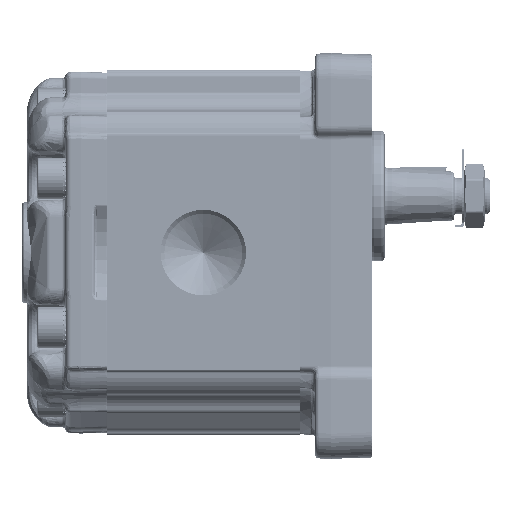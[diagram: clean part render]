
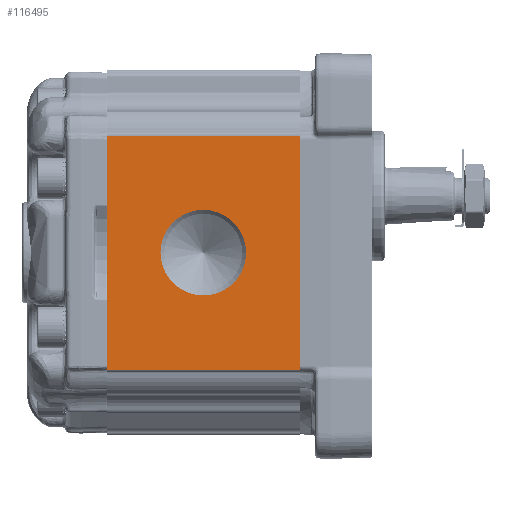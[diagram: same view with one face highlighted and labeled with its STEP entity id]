
A CAD part, left-side view. The second image highlights one B-rep face of the part: STEP entity #116495.
In plain terms, the highlighted planar face has unit normal (-1, 0, 0) as drawn and (1, 0, 0) by its records, which use the part's own axes.
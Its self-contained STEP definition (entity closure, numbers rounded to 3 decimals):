
#6817=PLANE('',#123142);
#9636=LINE('',#179223,#14495);
#9647=LINE('',#179307,#14506);
#9693=LINE('',#179457,#14552);
#9694=LINE('',#179458,#14553);
#14495=VECTOR('',#137034,1000.);
#14506=VECTOR('',#137109,1000.);
#14552=VECTOR('',#137271,1000.);
#14553=VECTOR('',#137272,1000.);
#29595=ORIENTED_EDGE('',*,*,#50536,.T.);
#29596=ORIENTED_EDGE('',*,*,#50415,.F.);
#29597=ORIENTED_EDGE('',*,*,#50537,.T.);
#29598=ORIENTED_EDGE('',*,*,#50457,.F.);
#29599=ORIENTED_EDGE('',*,*,#50538,.T.);
#50415=EDGE_CURVE('',#61752,#61753,#9636,.T.);
#50457=EDGE_CURVE('',#61794,#61795,#9647,.T.);
#50536=EDGE_CURVE('',#61839,#61839,#68621,.F.);
#50537=EDGE_CURVE('',#61752,#61795,#9693,.F.);
#50538=EDGE_CURVE('',#61794,#61753,#9694,.F.);
#61752=VERTEX_POINT('',#179222);
#61753=VERTEX_POINT('',#179224);
#61794=VERTEX_POINT('',#179308);
#61795=VERTEX_POINT('',#179309);
#61839=VERTEX_POINT('',#179456);
#68621=CIRCLE('',#123143,16.646);
#72848=EDGE_LOOP('',(#29595));
#72849=EDGE_LOOP('',(#29596,#29597,#29598,#29599));
#77866=FACE_BOUND('',#72848,.T.);
#77867=FACE_BOUND('',#72849,.T.);
#116495=ADVANCED_FACE('',(#77866,#77867),#6817,.T.);
#123142=AXIS2_PLACEMENT_3D('',#179454,#137267,#137268);
#123143=AXIS2_PLACEMENT_3D('',#179455,#137269,#137270);
#137034=DIRECTION('',(0.,0.,-1.));
#137109=DIRECTION('',(0.,0.,1.));
#137267=DIRECTION('',(1.,0.,0.));
#137268=DIRECTION('',(0.,0.,1.));
#137269=DIRECTION('',(1.,0.,0.));
#137270=DIRECTION('',(0.,0.,1.));
#137271=DIRECTION('',(0.,1.,0.));
#137272=DIRECTION('',(0.,-1.,0.));
#179222=CARTESIAN_POINT('',(57.5,75.,45.5));
#179223=CARTESIAN_POINT('',(57.5,75.,91.388));
#179224=CARTESIAN_POINT('',(57.5,75.,-45.5));
#179307=CARTESIAN_POINT('',(57.5,0.,-44.978));
#179308=CARTESIAN_POINT('',(57.5,0.,-45.5));
#179309=CARTESIAN_POINT('',(57.5,0.,45.5));
#179454=CARTESIAN_POINT('',(57.5,-149.417,91.388));
#179455=CARTESIAN_POINT('',(57.5,37.5,0.));
#179456=CARTESIAN_POINT('',(57.5,37.5,16.646));
#179457=CARTESIAN_POINT('',(57.5,-149.417,45.5));
#179458=CARTESIAN_POINT('',(57.5,-149.417,-45.5));
